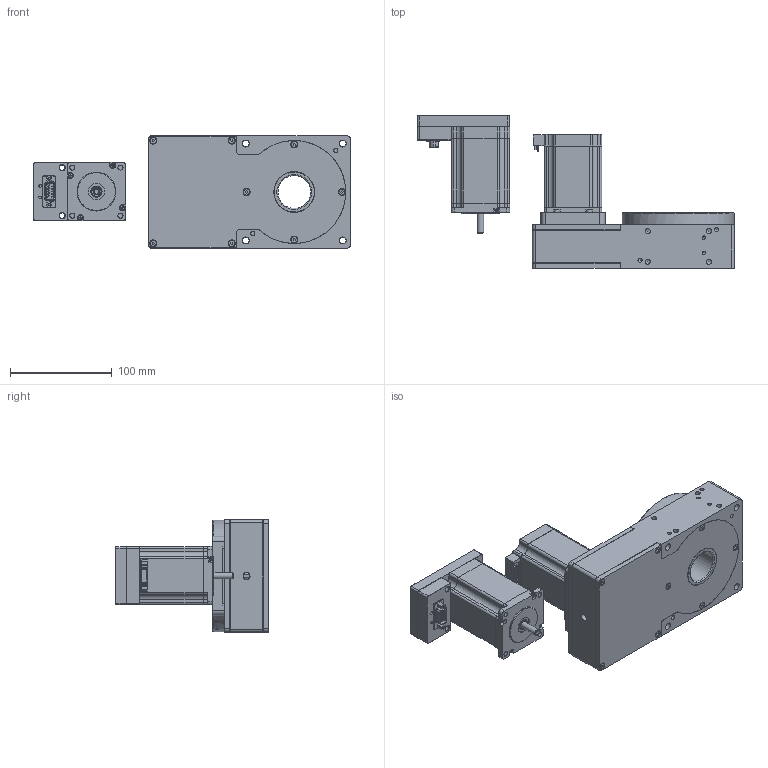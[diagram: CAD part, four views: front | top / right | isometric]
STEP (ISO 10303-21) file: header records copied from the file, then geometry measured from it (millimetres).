
FILE_DESCRIPTION (( 'STEP AP214' ), '1' );
FILE_NAME ('MDT360110-QN-MO.STEP', '2024-11-12T09:43:21', ( '' ), ( '' ), 'SwSTEP 2.0', 'SolidWorks 2022', '' );
FILE_SCHEMA (( 'AUTOMOTIVE_DESIGN' ));
Length unit declared in the file: millimetre
Products named in the file (5): MDT360110-01-999-Drehscheibe-mit-Hohlwelle; NSM23-2,3Nm^MDT360110-QN-MO; MDT360110-QN-MO; MDT110ZA-02-01-000-Gehäuse-MO; GSM23-1,75Nm^MDT360110-QN-MO
Assembly tree (4 placements, depth 2):
  MDT360110-QN-MO
    MDT110ZA-02-01-000-Gehäuse-MO
    MDT360110-01-999-Drehscheibe-mit-Hohlwelle
    NSM23-2,3Nm^MDT360110-QN-MO
    GSM23-1,75Nm^MDT360110-QN-MO
Bounding box: 310.54 x 150 x 110 mm (x, y, z)
Volume: 1146090.7 mm3; surface area: 312911.9 mm2
Topology: 39 solids, 45 shells, 1720 faces, 4216 edges, 2659 vertices
Faces by surface type: plane 815, cylinder 562, cone 200, bspline 102, torus 41
Full cylindrical faces by diameter (mm): 0.6 x15, 1.5 x1, 2 x1, 2.5 x24, 2.8 x2, 3 x20, 3.1 x8, 3.2 x10, 3.3 x10, 3.4 x4, 3.998 x4, 4 x10, 4.02 x10, 4.2 x3, 4.5 x4, 4.772 x4, 5 x28, 5.2 x2, 5.5 x1, 5.6 x10, 6 x13, 6.35 x2, 6.6 x4, 6.8 x5, 7 x5, 7.4 x1, 8 x4, 8.2 x2, 10.5 x1, 11 x4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
Entity records: 69622 total; most frequent: CARTESIAN_POINT 13126, DIRECTION 7912, ORIENTED_EDGE 7118, EDGE_CURVE 3559, AXIS2_PLACEMENT_3D 3014, VERTEX_POINT 2503, EDGE_LOOP 2416, FACE_OUTER_BOUND 2020
